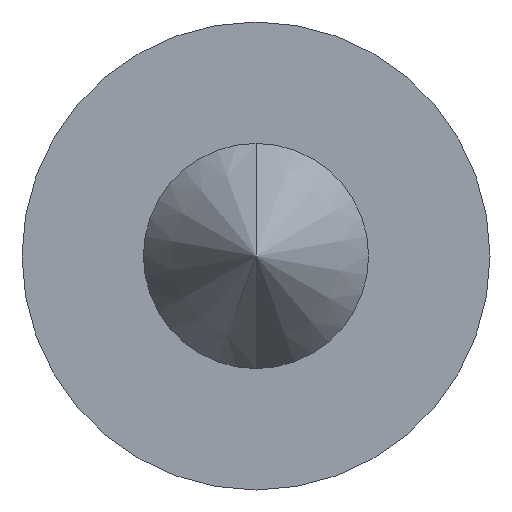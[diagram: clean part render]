
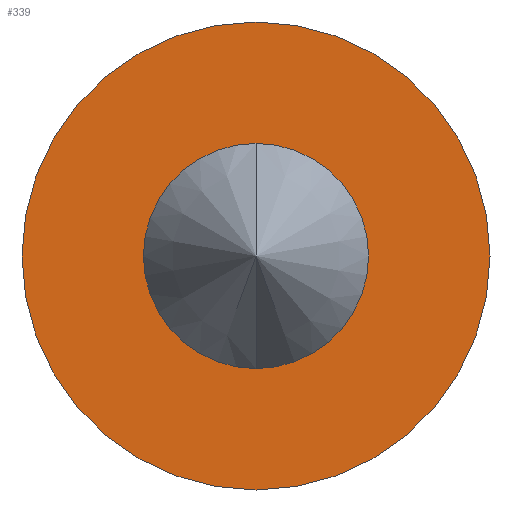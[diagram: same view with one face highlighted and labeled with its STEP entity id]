
A CAD part, front view. The second image highlights one B-rep face of the part: STEP entity #339.
In plain terms, the highlighted planar face has unit normal (0, -1, 0).
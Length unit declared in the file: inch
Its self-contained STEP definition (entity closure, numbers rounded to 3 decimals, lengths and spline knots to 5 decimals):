
#11 = AXIS2_PLACEMENT_3D ( 'NONE', #75, #353, #161 ) ;
#17 = EDGE_CURVE ( 'NONE', #289, #359, #247, .T. ) ;
#31 = DIRECTION ( 'NONE',  ( 0., 0., -1. ) ) ;
#37 = AXIS2_PLACEMENT_3D ( 'NONE', #53, #304, #60 ) ;
#39 = FACE_BOUND ( 'NONE', #170, .T. ) ;
#53 = CARTESIAN_POINT ( 'NONE',  ( 0., -0.25084, 0. ) ) ;
#56 = CARTESIAN_POINT ( 'NONE',  ( 0., -0.25084, 0. ) ) ;
#60 = DIRECTION ( 'NONE',  ( 0., 0., -1. ) ) ;
#67 = CIRCLE ( 'NONE', #37, 0.1975 ) ;
#75 = CARTESIAN_POINT ( 'NONE',  ( 0., -0.25084, -0.095 ) ) ;
#100 = EDGE_CURVE ( 'NONE', #266, #194, #321, .T. ) ;
#106 = CARTESIAN_POINT ( 'NONE',  ( 0., -0.25084, 0.1975 ) ) ;
#114 = DIRECTION ( 'NONE',  ( 0., -1., 0. ) ) ;
#130 = DIRECTION ( 'NONE',  ( 0., -1., 0. ) ) ;
#131 = ORIENTED_EDGE ( 'NONE', *, *, #17, .T. ) ;
#137 = EDGE_CURVE ( 'NONE', #359, #289, #67, .T. ) ;
#145 = CARTESIAN_POINT ( 'NONE',  ( 0., -0.25084, 0. ) ) ;
#150 = DIRECTION ( 'NONE',  ( 0., -1., 0. ) ) ;
#151 = EDGE_LOOP ( 'NONE', ( #131, #202 ) ) ;
#153 = CARTESIAN_POINT ( 'NONE',  ( 0., -0.25084, 0.095 ) ) ;
#157 = AXIS2_PLACEMENT_3D ( 'NONE', #145, #114, #333 ) ;
#161 = DIRECTION ( 'NONE',  ( 0., 0., -1. ) ) ;
#168 = FACE_OUTER_BOUND ( 'NONE', #151, .T. ) ;
#170 = EDGE_LOOP ( 'NONE', ( #222, #233 ) ) ;
#194 = VERTEX_POINT ( 'NONE', #153 ) ;
#202 = ORIENTED_EDGE ( 'NONE', *, *, #137, .T. ) ;
#222 = ORIENTED_EDGE ( 'NONE', *, *, #100, .F. ) ;
#232 = CARTESIAN_POINT ( 'NONE',  ( 0., -0.25084, -0.1975 ) ) ;
#233 = ORIENTED_EDGE ( 'NONE', *, *, #299, .F. ) ;
#247 = CIRCLE ( 'NONE', #283, 0.1975 ) ;
#258 = CARTESIAN_POINT ( 'NONE',  ( 0., -0.25084, 0. ) ) ;
#266 = VERTEX_POINT ( 'NONE', #385 ) ;
#283 = AXIS2_PLACEMENT_3D ( 'NONE', #56, #150, #31 ) ;
#287 = AXIS2_PLACEMENT_3D ( 'NONE', #258, #130, #382 ) ;
#289 = VERTEX_POINT ( 'NONE', #232 ) ;
#299 = EDGE_CURVE ( 'NONE', #194, #266, #302, .T. ) ;
#302 = CIRCLE ( 'NONE', #287, 0.095 ) ;
#304 = DIRECTION ( 'NONE',  ( 0., -1., 0. ) ) ;
#321 = CIRCLE ( 'NONE', #157, 0.095 ) ;
#333 = DIRECTION ( 'NONE',  ( 0., 0., -1. ) ) ;
#339 = ADVANCED_FACE ( 'NONE', ( #168, #39 ), #358, .T. ) ;
#353 = DIRECTION ( 'NONE',  ( 0., -1., 0. ) ) ;
#358 = PLANE ( 'NONE',  #11 ) ;
#359 = VERTEX_POINT ( 'NONE', #106 ) ;
#382 = DIRECTION ( 'NONE',  ( 0., 0., -1. ) ) ;
#385 = CARTESIAN_POINT ( 'NONE',  ( 0., -0.25084, -0.095 ) ) ;
